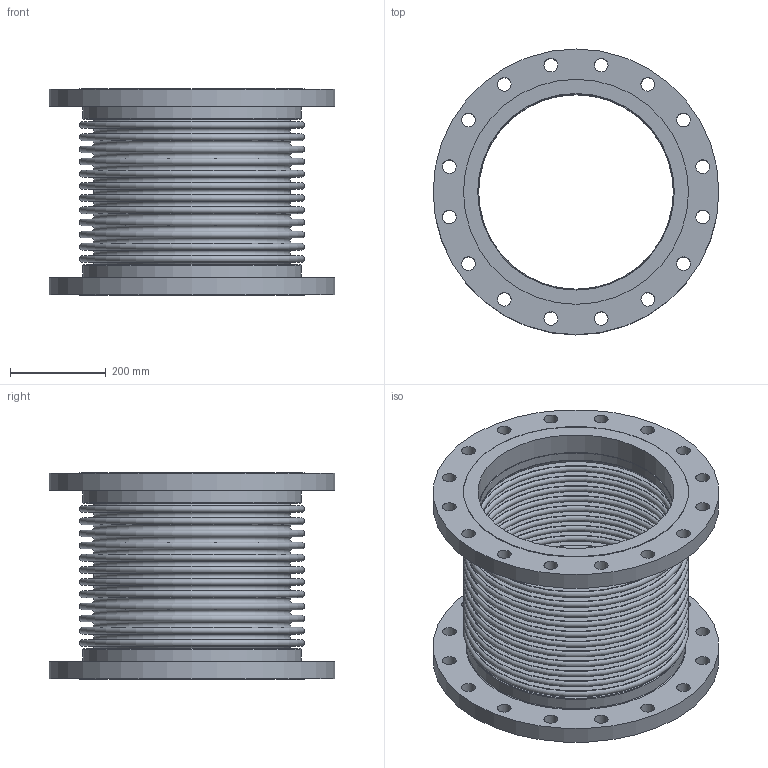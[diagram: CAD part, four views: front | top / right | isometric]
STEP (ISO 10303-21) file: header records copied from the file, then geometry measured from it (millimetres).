
FILE_DESCRIPTION(/* description */ ('EXPANSION JOINT,SINGLE, FLANGED ENDS,16 INCH','CAx-IF Rec.Pracs.---Representation and Presentation of Product Manufacturing Information (PMI)---4.0---2014-10-13'),/* implementation_level */ '2;1');
FILE_NAME(/* name */ 'US-16-12-85L-FLANGED ENDS.stp',/* time_stamp */ '2026-07-31T17:34:19-05:00',/* author */ ('Guadalupe'),/* organization */ (''),/* preprocessor_version */ 'ST-DEVELOPER v20.1',/* originating_system */ 'Autodesk Inventor 2026',/* authorisation */ '');
FILE_SCHEMA (('AP242_MANAGED_MODEL_BASED_3D_ENGINEERING_MIM_LF { 1 0 10303 442 2 1 4 }'));
Length unit declared in the file: inch
Products named in the file (3): 16-85L; 16-85L-02; 16-85L-01
Assembly tree (3 placements, depth 2):
  16-85L
    16-85L-02  x2
    16-85L-01
Bounding box: 596.9 x 596.9 x 431.8 mm (x, y, z)
Volume: 13042761.6 mm3; surface area: 3626103.6 mm2
Topology: 5 solids, 5 shells, 160 faces, 294 edges, 196 vertices
Faces by surface type: plane 62, torus 54, cylinder 44
Full cylindrical faces by diameter (mm): 28.575 x32, 406.4 x2, 408.838 x2, 410.464 x2, 457.2 x2, 469.9 x2, 596.9 x2
Entity records: 3606 total; most frequent: DIRECTION 738, CARTESIAN_POINT 537, ORIENTED_EDGE 456, AXIS2_PLACEMENT_3D 357, EDGE_CURVE 228, EDGE_LOOP 224, CIRCLE 204, VERTEX_POINT 152
